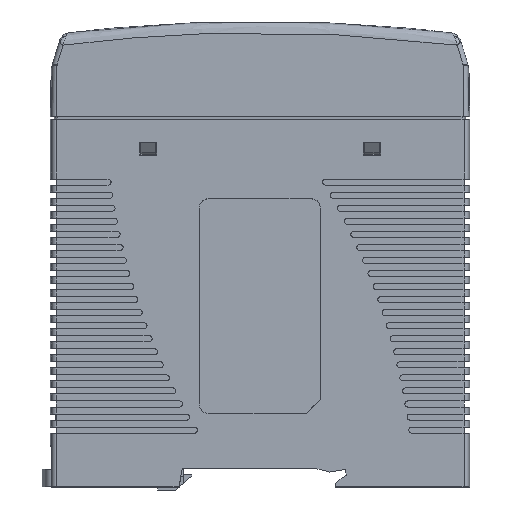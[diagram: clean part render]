
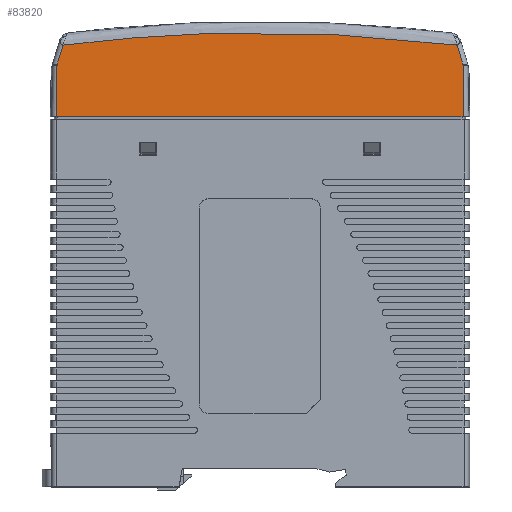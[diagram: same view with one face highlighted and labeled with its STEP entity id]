
A CAD part, left-side view. The second image highlights one B-rep face of the part: STEP entity #83820.
In plain terms, the highlighted planar face has unit normal (-1, 0, 0.018).
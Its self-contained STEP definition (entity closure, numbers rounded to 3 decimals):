
#72860=CARTESIAN_POINT('',(-11.294,43.75,40.5)
);
#72870=DIRECTION('',(0.,-1.,0.));
#72880=VECTOR('',#72870,1.);
#72890=LINE('',#72860,#72880);
#72900=CARTESIAN_POINT('',(-11.294,43.75,
40.5));
#72910=VERTEX_POINT('',#72900);
#72920=CARTESIAN_POINT('',(-11.294,-43.75,
40.5));
#72930=VERTEX_POINT('',#72920);
#72940=EDGE_CURVE('',#72910,#72930,#72890,.T.);
#75670=CARTESIAN_POINT('',(-11.1,43.566,
51.587));
#75680=VERTEX_POINT('',#75670);
#75710=CARTESIAN_POINT('',(-11.096,43.562,
51.809));
#75720=DIRECTION('',(-0.017,0.017,
-1.));
#75730=VECTOR('',#75720,1.);
#75740=LINE('',#75710,#75730);
#75750=EDGE_CURVE('',#75680,#72910,#75740,.T.);
#83260=CARTESIAN_POINT('',(-11.298,-43.754,
40.271));
#83270=DIRECTION('',(0.017,0.017,
1.));
#83280=VECTOR('',#83270,1.);
#83290=LINE('',#83260,#83280);
#83300=CARTESIAN_POINT('',(-11.1,-43.566,
51.585));
#83310=VERTEX_POINT('',#83300);
#83320=EDGE_CURVE('',#72930,#83310,#83290,.T.);
#83460=CARTESIAN_POINT('',(-11.136,0.,
49.522));
#83470=DIRECTION('',(1.,0.,-0.017));
#83480=DIRECTION('',(0.,-1.,0.));
#83490=AXIS2_PLACEMENT_3D('',#83460,#83470,#83480);
#83500=PLANE('',#83490);
#83510=CARTESIAN_POINT('',(-11.025,42.286,55.878
));
#83520=DIRECTION('',(-0.017,0.286,
-0.958));
#83530=VECTOR('',#83520,1.);
#83540=LINE('',#83510,#83530);
#83550=CARTESIAN_POINT('',(-11.025,42.286,55.878
));
#83560=VERTEX_POINT('',#83550);
#83570=EDGE_CURVE('',#83560,#75680,#83540,.T.);
#83580=ORIENTED_EDGE('',*,*,#83570,.T.);
#83590=CARTESIAN_POINT('',(-11.025,-42.287,55.873
));
#83600=CARTESIAN_POINT('',(-11.01,-35.28,
56.761));
#83610=CARTESIAN_POINT('',(-10.986,-21.202,58.097)
);
#83620=CARTESIAN_POINT('',(-10.975,-0.001,
58.767));
#83630=CARTESIAN_POINT('',(-10.986,21.201,58.099))
;
#83640=CARTESIAN_POINT('',(-11.01,35.279,56.765
));
#83650=CARTESIAN_POINT('',(-11.025,42.286,55.878
));
#83660=B_SPLINE_CURVE_WITH_KNOTS('',3,(#83590,#83600,#83610,#83620,
#83630,#83640,#83650),.UNSPECIFIED.,.F.,.F.,(4,1,1,1,4),(0.,
0.25,0.5,0.75,1.),.UNSPECIFIED.);
#83670=CARTESIAN_POINT('',(-11.025,-42.287,55.873
));
#83680=VERTEX_POINT('',#83670);
#83690=EDGE_CURVE('',#83680,#83560,#83660,.T.);
#83700=ORIENTED_EDGE('',*,*,#83690,.T.);
#83710=CARTESIAN_POINT('',(-11.1,-43.566,
51.585));
#83720=DIRECTION('',(0.017,0.286,
0.958));
#83730=VECTOR('',#83720,1.);
#83740=LINE('',#83710,#83730);
#83750=EDGE_CURVE('',#83310,#83680,#83740,.T.);
#83760=ORIENTED_EDGE('',*,*,#83750,.T.);
#83770=ORIENTED_EDGE('',*,*,#83320,.T.);
#83780=ORIENTED_EDGE('',*,*,#72940,.T.);
#83790=ORIENTED_EDGE('',*,*,#75750,.T.);
#83800=EDGE_LOOP('',(#83790,#83780,#83770,#83760,#83700,#83580));
#83810=FACE_OUTER_BOUND('',#83800,.T.);
#83820=ADVANCED_FACE('',(#83810),#83500,.F.);
